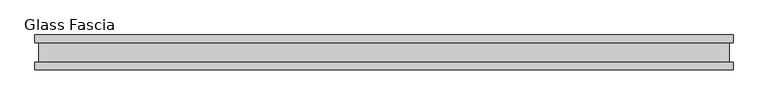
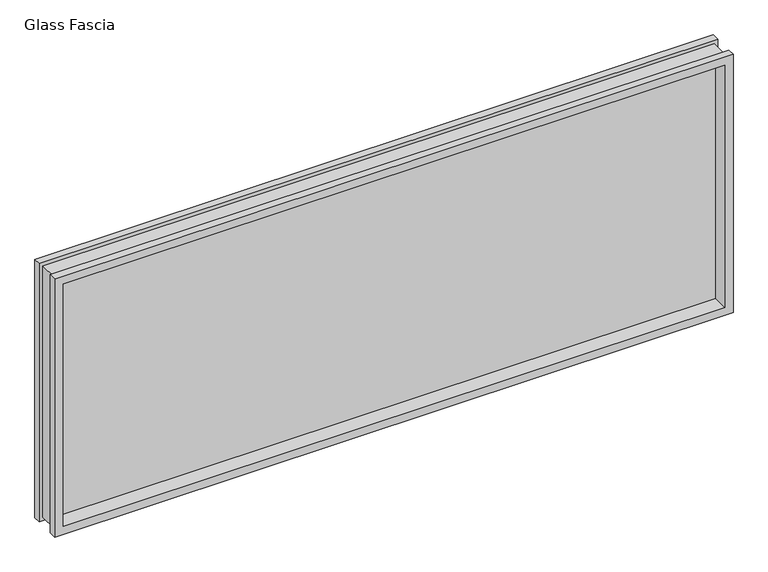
"""IFC4 building model written with IfcOpenShell, lengths in millimetres: proxy geometry, Panel-Fascia-Teknion-Altos-Glass : Glass Fascia."""

import ifcopenshell
import ifcopenshell.guid

model = None  # the IFC model being written
_history = None  # IfcOwnerHistory: only IFC2X3 demands one
_inside = {}  # id of a spatial element -> (the spatial element, [elements in it])
_under = {}  # id of a project, library or spatial element -> (it, [spatial elements below it])
_declared = {}  # id of a project -> (the project, [libraries it declares])
_typed = {}  # id of a type object -> (the type object, [elements of that type])
_made_of = {}  # id of a material, layer set ... -> (it, [elements and type objects made of it])


def new_model(schema):
    """Start an empty IFC model of exactly this schema.

    Asked for "IFC4X3", IfcOpenShell would pick the latest addendum, in which some entities
    have other attributes; the version numbers below select the first issue.
    IFC2X3 requires an IfcOwnerHistory on every rooted entity: one is made here for all.
    """
    global model, _history
    if schema == "IFC4X3":
        model = ifcopenshell.file(schema_version=(4, 3, 0, 0))
    else:
        model = ifcopenshell.file(schema=schema)
    _inside.clear()
    _under.clear()
    _declared.clear()
    _typed.clear()
    _made_of.clear()
    _history = None
    if model.schema == "IFC2X3":
        org = make("IfcOrganization", Name="unknown")
        user = make(
            "IfcPersonAndOrganization",
            ThePerson=make("IfcPerson", FamilyName="unknown"),
            TheOrganization=org,
        )
        app = make(
            "IfcApplication",
            ApplicationDeveloper=org,
            Version="unknown",
            ApplicationFullName="unknown",
            ApplicationIdentifier="unknown",
        )
        _history = make(
            "IfcOwnerHistory",
            OwningUser=user,
            OwningApplication=app,
            ChangeAction="ADDED",
            CreationDate=0,
        )
    return model


def make(cls, **values):
    """One entity of the class cls with the attributes given. An attribute that is None is left unset."""
    return model.create_entity(
        cls, **{name: value for name, value in values.items() if value is not None}
    )


def rooted(cls, **values):
    """An entity with a GlobalId (a new one), such as an element, a storey or a relation."""
    return make(cls, GlobalId=ifcopenshell.guid.new(), OwnerHistory=_history, **values)


def si_unit(unit_type, name, prefix=None):
    """IfcSIUnit, for example si_unit("LENGTHUNIT", "METRE", prefix="MILLI")."""
    return make("IfcSIUnit", UnitType=unit_type, Prefix=prefix, Name=name)


def assignment(units):
    """IfcUnitAssignment: the units of a project."""
    return None if units is None else make("IfcUnitAssignment", Units=units)


def point(xyz):
    """IfcCartesianPoint."""
    return None if xyz is None else make("IfcCartesianPoint", Coordinates=xyz)


def direction(xyz):
    """IfcDirection."""
    return None if xyz is None else make("IfcDirection", DirectionRatios=xyz)


def frame(location, z_axis=None, x_axis=None):
    """IfcAxis2Placement3D, a coordinate frame: its origin and axes. An axis left out is left unset."""
    return make(
        "IfcAxis2Placement3D",
        Location=point(location),
        Axis=direction(z_axis),
        RefDirection=direction(x_axis),
    )


def origin():
    """The frame at (0, 0, 0) with its axes left unset."""
    return frame((0.0, 0.0, 0.0))


def place(relative_to, where):
    """IfcLocalPlacement: puts the frame where relative to a parent placement (None: the world)."""
    return make(
        "IfcLocalPlacement", PlacementRelTo=relative_to, RelativePlacement=where
    )


def context(
    kind, dimensions, precision=None, world=None, true_north=None, identifier=None
):
    """IfcGeometricRepresentationContext, for example the 3D "Model" context."""
    return make(
        "IfcGeometricRepresentationContext",
        ContextIdentifier=identifier,
        ContextType=kind,
        CoordinateSpaceDimension=dimensions,
        Precision=precision,
        WorldCoordinateSystem=world,
        TrueNorth=true_north,
    )


def project(units=None, contexts=None):
    """IfcProject with its units and contexts."""
    return rooted(
        "IfcProject",
        Name="project",
        RepresentationContexts=contexts,
        UnitsInContext=assignment(units),
    )


def spatial(cls, under=None, at=None, **own):
    """A site, building, storey or space (cls), placed at a placement, below another one or the project."""
    s = rooted(cls, ObjectPlacement=at, **own)
    if under is not None:
        _under.setdefault(under.id(), (under, []))[1].append(s)
    return s


def polyline(points):
    """IfcPolyline through the points."""
    return make("IfcPolyline", Points=[point(p) for p in points])


def outline(outer, holes=None, kind="AREA"):
    """IfcArbitraryClosedProfileDef: a profile drawn as a closed curve; with holes, ...WithVoids."""
    if holes is None:
        return make("IfcArbitraryClosedProfileDef", ProfileType=kind, OuterCurve=outer)
    return make(
        "IfcArbitraryProfileDefWithVoids",
        ProfileType=kind,
        OuterCurve=outer,
        InnerCurves=holes,
    )


def extrude(swept, where, along, depth):
    """IfcExtrudedAreaSolid: the profile swept, set in the frame where, extruded along a direction by depth."""
    return make(
        "IfcExtrudedAreaSolid",
        SweptArea=swept,
        Position=where,
        ExtrudedDirection=direction(along),
        Depth=depth,
    )


def faces_of(points, faces, orient=None, outer=None):
    """IfcFace entities. A face is a list of loops; a loop is a list of indices into points, from 0.

    orient and outer hold one flag for each loop. By default every Orientation is true, the
    first loop of a face is its IfcFaceOuterBound and the others are IfcFaceBound.
    """
    made = []
    for i, loops in enumerate(faces):
        bounds = []
        for j, loop in enumerate(loops):
            is_outer = j == 0 if outer is None else outer[i][j]
            bounds.append(
                make(
                    "IfcFaceOuterBound" if is_outer else "IfcFaceBound",
                    Bound=make("IfcPolyLoop", Polygon=[points[k] for k in loop]),
                    Orientation=True if orient is None else orient[i][j],
                )
            )
        made.append(make("IfcFace", Bounds=bounds))
    return made


def faceted_brep(points, faces, orient=None, outer=None, voids=None):
    """IfcFacetedBrep: a solid bounded by flat faces; with voids (closed shells), ...WithVoids."""
    shared = [point(p) for p in points]
    hull = make("IfcClosedShell", CfsFaces=faces_of(shared, faces, orient, outer))
    if voids is None:
        return make("IfcFacetedBrep", Outer=hull)
    return make(
        "IfcFacetedBrepWithVoids",
        Outer=hull,
        Voids=[
            make(cls, CfsFaces=faces_of(shared, fs, o, b)) for cls, fs, o, b in voids
        ],
    )


def shape(context_of_items, identifier, shape_type, items):
    """IfcShapeRepresentation: the items that make up one representation, for example the "Body"."""
    return make(
        "IfcShapeRepresentation",
        ContextOfItems=context_of_items,
        RepresentationIdentifier=identifier,
        RepresentationType=shape_type,
        Items=items,
    )


def source(mapping_origin, context_of_items, identifier, shape_type, items):
    """IfcRepresentationMap: a shape defined once, which mapped items show again and again."""
    return make(
        "IfcRepresentationMap",
        MappingOrigin=mapping_origin,
        MappedRepresentation=shape(context_of_items, identifier, shape_type, items),
    )


def transform(
    local_origin,
    x_axis=None,
    y_axis=None,
    z_axis=None,
    scale=None,
    scale2=None,
    scale3=None,
    uniform=True,
):
    """IfcCartesianTransformationOperator3D, or its non-uniform kind. x_axis, y_axis, z_axis: its Axis1, 2, 3."""
    if uniform:
        return make(
            "IfcCartesianTransformationOperator3D",
            Axis1=direction(x_axis),
            Axis2=direction(y_axis),
            LocalOrigin=point(local_origin),
            Scale=scale,
            Axis3=direction(z_axis),
        )
    return make(
        "IfcCartesianTransformationOperator3DnonUniform",
        Axis1=direction(x_axis),
        Axis2=direction(y_axis),
        LocalOrigin=point(local_origin),
        Scale=scale,
        Axis3=direction(z_axis),
        Scale2=scale2,
        Scale3=scale3,
    )


def mapped(mapping_source, mapping_target):
    """IfcMappedItem: shows the shape of a source again, moved by a transform."""
    return make(
        "IfcMappedItem", MappingSource=mapping_source, MappingTarget=mapping_target
    )


def made_of(thing, what):
    """Note that an element or type object is made of a material, layer set ...; save() writes the relation."""
    if what is not None:
        _made_of.setdefault(what.id(), (what, []))[1].append(thing)
    return thing


def element(
    cls,
    number,
    at=None,
    inside=None,
    cuts=None,
    type_object=None,
    material=None,
    context=None,
    identifier="Body",
    shape_type=None,
    held_by="IfcProductDefinitionShape",
    body=None,
    shapes=None,
    **own,
):
    """One element of the class cls, such as IfcWall. Its Tag is "e" and its number.

    at: its placement. inside: the storey or other place that contains it. cuts: it is an
    opening in that element (IfcRelVoidsElement). A single representation is given by context,
    identifier, shape_type and body (its items); several are given by shapes. held_by: the class
    of the entity that holds the representations. save() writes the other relations.
    """
    e = rooted(cls, Tag="e%d" % number, ObjectPlacement=at, **own)
    if body is not None:
        shapes = [shape(context, identifier, shape_type, body)]
    if shapes is not None:
        e.Representation = make(held_by, Representations=shapes)
    if inside is not None:
        _inside.setdefault(inside.id(), (inside, []))[1].append(e)
    if cuts is not None:
        rooted(
            "IfcRelVoidsElement", RelatingBuildingElement=cuts, RelatedOpeningElement=e
        )
    if type_object is not None:
        _typed.setdefault(type_object.id(), (type_object, []))[1].append(e)
    return made_of(e, material)


def aggregate(whole, parts):
    """IfcRelAggregates: a whole, such as a stair, and the parts it consists of."""
    return rooted("IfcRelAggregates", RelatingObject=whole, RelatedObjects=parts)


def save(model, path):
    """Write the relations noted so far, then the file.

    IfcRelAggregates (storeys below a building ...), IfcRelContainedInSpatialStructure (elements
    in a storey), IfcRelDefinesByType, IfcRelAssociatesMaterial and IfcRelDeclares: one each for
    every whole, place, type object, material and project.
    """
    for whole, parts in _under.values():
        aggregate(whole, parts)
    for where, things in _inside.values():
        rooted(
            "IfcRelContainedInSpatialStructure",
            RelatedElements=things,
            RelatingStructure=where,
        )
    for kind, things in _typed.values():
        rooted("IfcRelDefinesByType", RelatedObjects=things, RelatingType=kind)
    for what, things in _made_of.values():
        rooted("IfcRelAssociatesMaterial", RelatedObjects=things, RelatingMaterial=what)
    for by, libraries in _declared.values():
        rooted("IfcRelDeclares", RelatingContext=by, RelatedDefinitions=libraries)
    model.write(path)


def glass_fascia_c39cd329(model_context):
    return source(origin(), model_context, "Body", "SolidModel", [
        faceted_brep([(984.4096781, -5.0827449, 793.1305243), (984.4096781, 5.0827449, 793.1305243), (984.4096781, 5.0827449, 17.6374757), (984.4096781, -5.0827449, 17.6374757), (998.8721539, -28.8801202, 807.593), (998.8721539, -50.0558594, 807.593), (998.8721539, -50.0558594, 3.175), (998.8721539, -28.8801202, 3.175), (988.0471539, 28.2698798, 796.7680001), (988.0471539, -28.8801202, 796.7680001), (988.0471539, -28.8801202, 13.9999999), (988.0471539, 28.2698798, 13.9999999), (998.8721539, 50.0558594, 807.593), (998.8721539, 28.2698798, 807.593), (998.8721539, 28.2698798, 3.175), (998.8721539, 50.0558594, 3.175), (-984.4096781, 5.0827449, 17.6374757), (-984.4096781, -5.0827449, 17.6374757), (-998.8721539, -50.0558594, 3.175), (-998.8721539, -28.8801202, 3.175), (-988.0471539, -28.8801202, 13.9999999), (-988.0471539, 28.2698798, 13.9999999), (-998.8721539, 28.2698798, 3.175), (-998.8721539, 50.0558594, 3.175), (-984.4096781, 5.0827449, 793.1305243), (-984.4096781, -5.0827449, 793.1305243), (-998.8721539, -50.0558594, 807.593), (-998.8721539, -28.8801202, 807.593), (-988.0471539, -28.8801202, 796.7680001), (-988.0471539, 28.2698798, 796.7680001), (-998.8721539, 28.2698798, 807.593), (-998.8721539, 50.0558594, 807.593), (973.919487, 50.0558594, 782.6403332), (-973.919487, 50.0558594, 782.6403332), (-973.919487, 50.0558594, 28.1276668), (973.919487, 50.0558594, 28.1276668), (973.919487, 5.0827449, 28.1276668), (-973.919487, 5.0827449, 28.1276668), (-973.919487, 5.0827449, 782.6403332), (973.919487, 5.0827449, 782.6403332), (973.919487, -5.0827449, 782.6403332), (-973.919487, -5.0827449, 782.6403332), (-973.919487, -5.0827449, 28.1276668), (973.919487, -5.0827449, 28.1276668), (973.919487, -50.0558594, 28.1276668), (-973.919487, -50.0558594, 28.1276668), (-973.919487, -50.0558594, 782.6403332), (973.919487, -50.0558594, 782.6403332)], [[[0, 1, 2, 3]], [[4, 5, 6, 7]], [[8, 9, 10, 11]], [[12, 13, 14, 15]], [[3, 2, 16, 17]], [[7, 6, 18, 19]], [[11, 10, 20, 21]], [[15, 14, 22, 23]], [[17, 16, 24, 25]], [[19, 18, 26, 27]], [[21, 20, 28, 29]], [[23, 22, 30, 31]], [[15, 23, 31, 12], [32, 33, 34, 35]], [[1, 24, 16, 2], [36, 37, 38, 39]], [[25, 24, 1, 0]], [[3, 17, 25, 0], [40, 41, 42, 43]], [[5, 26, 18, 6], [44, 45, 46, 47]], [[27, 26, 5, 4]], [[7, 19, 27, 4], [9, 28, 20, 10]], [[29, 28, 9, 8]], [[13, 30, 22, 14], [11, 21, 29, 8]], [[31, 30, 13, 12]], [[39, 32, 35, 36]], [[47, 40, 43, 44]], [[36, 35, 34, 37]], [[44, 43, 42, 45]], [[37, 34, 33, 38]], [[45, 42, 41, 46]], [[38, 33, 32, 39]], [[46, 41, 40, 47]]]),
        extrude(outline(polyline([(984.4096781, 2.9765625), (984.4096781, -2.9765625), (-984.4096781, -2.9765625), (-984.4096781, 2.9765625), (984.4096781, 2.9765625)])), frame((0.0, 0.0, 17.6374757), z_axis=(0.0, 0.0, 1.0), x_axis=(1.0, 0.0, 0.0)), (0.0, 0.0, 1.0), 775.4930485),
    ])


if __name__ == "__main__":
    model = new_model("IFC4")
    model_context = context("Model", 3, world=origin())
    ifc_project = project(units=[si_unit("LENGTHUNIT", "METRE", prefix="MILLI")], contexts=[model_context])
    site = spatial("IfcSite", under=ifc_project)
    building = spatial("IfcBuilding", under=site)
    placement = place(None, origin())
    glass_fascia_shape = glass_fascia_c39cd329(model_context)
    element("IfcBuildingElementProxy", 1, Name="Panel-Fascia-Teknion-Altos-Glass : Glass Fascia", ObjectType="Panel-Fascia-Teknion-Altos-Glass : Glass Fascia", at=placement, inside=building, context=model_context, shape_type="MappedRepresentation", body=[
        mapped(glass_fascia_shape, transform((0.0, 0.0, 0.0), x_axis=(1.0, 0.0, 0.0), y_axis=(0.0, 1.0, 0.0), z_axis=(0.0, 0.0, 1.0))),
    ])
    save(model, "model.ifc")
